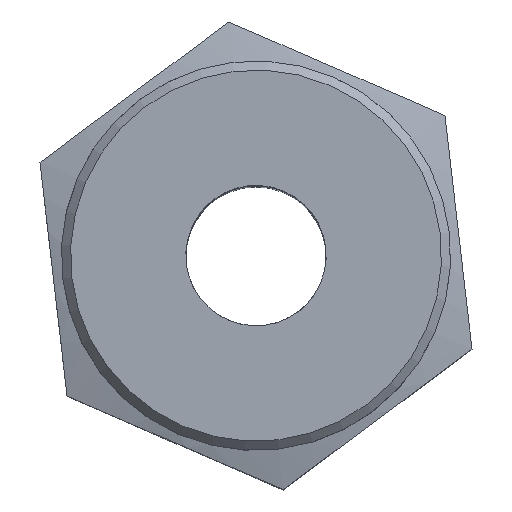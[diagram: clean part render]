
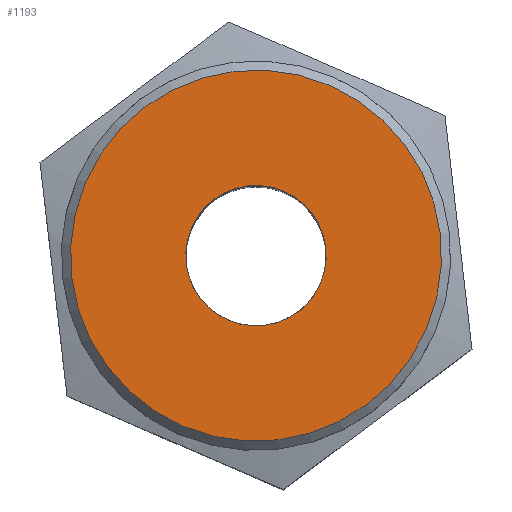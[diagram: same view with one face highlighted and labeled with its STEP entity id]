
A CAD part, top view. The second image highlights one B-rep face of the part: STEP entity #1193.
In plain terms, the highlighted planar face has unit normal (0, 0, 1) as drawn and (0, 1, 0) by its records, which use the part's own axes.
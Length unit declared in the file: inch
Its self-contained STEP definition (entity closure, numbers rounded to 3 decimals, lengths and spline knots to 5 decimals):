
#228=PLANE('',#1292);
#266=FACE_BOUND('',#398,.T.);
#305=FACE_OUTER_BOUND('',#397,.T.);
#397=EDGE_LOOP('',(#866));
#398=EDGE_LOOP('',(#867));
#497=CIRCLE('',#1289,0.25375);
#499=CIRCLE('',#1293,0.096);
#552=VERTEX_POINT('',#2954);
#554=VERTEX_POINT('',#2960);
#678=EDGE_CURVE('',#552,#552,#497,.T.);
#680=EDGE_CURVE('',#554,#554,#499,.T.);
#866=ORIENTED_EDGE('',*,*,#678,.F.);
#867=ORIENTED_EDGE('',*,*,#680,.T.);
#1193=ADVANCED_FACE('',(#305,#266),#228,.T.);
#1289=AXIS2_PLACEMENT_3D('',#2955,#1460,#1461);
#1292=AXIS2_PLACEMENT_3D('',#2959,#1466,#1467);
#1293=AXIS2_PLACEMENT_3D('',#2961,#1468,#1469);
#1460=DIRECTION('center_axis',(0.,-1.,0.));
#1461=DIRECTION('ref_axis',(-1.,0.,0.));
#1466=DIRECTION('center_axis',(0.,1.,0.));
#1467=DIRECTION('ref_axis',(0.,0.,1.));
#1468=DIRECTION('center_axis',(0.,-1.,0.));
#1469=DIRECTION('ref_axis',(-1.,0.,0.));
#2954=CARTESIAN_POINT('',(0.25375,0.475,0.));
#2955=CARTESIAN_POINT('Origin',(0.,0.475,0.));
#2959=CARTESIAN_POINT('Origin',(0.,0.475,0.));
#2960=CARTESIAN_POINT('',(0.096,0.475,0.));
#2961=CARTESIAN_POINT('Origin',(0.,0.475,0.));
